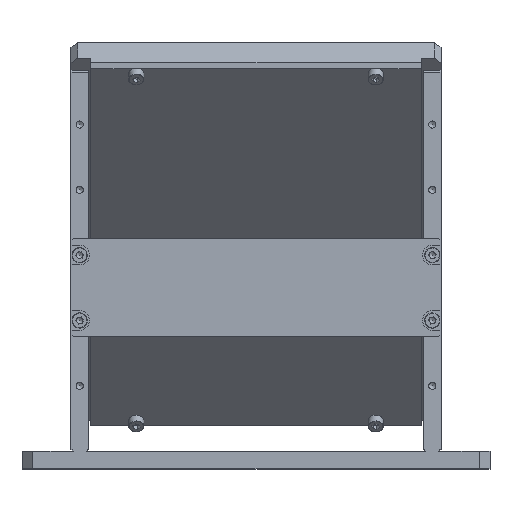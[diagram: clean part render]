
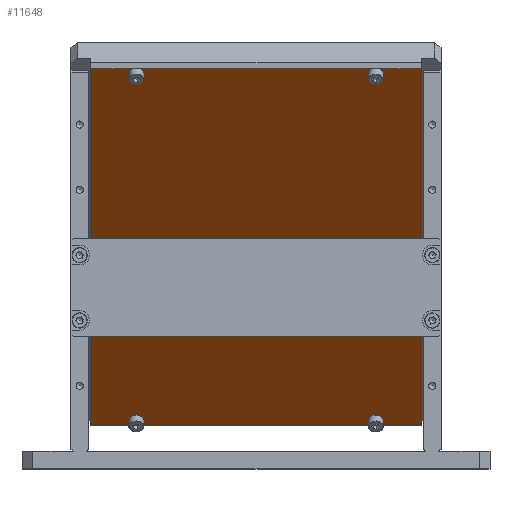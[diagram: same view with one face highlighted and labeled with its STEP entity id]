
A CAD part, top view. The second image highlights one B-rep face of the part: STEP entity #11648.
In plain terms, the highlighted planar face has unit normal (0, -0.707, 0.707).
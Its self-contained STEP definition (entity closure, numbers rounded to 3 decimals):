
#170 = CIRCLE ( 'NONE', #17756, 3.5 ) ;
#359 = DIRECTION ( 'NONE',  ( 1., 0., 0. ) ) ;
#461 = EDGE_CURVE ( 'NONE', #4904, #11922, #7398, .T. ) ;
#492 = DIRECTION ( 'NONE',  ( 0.73, -0.483, -0.483 ) ) ;
#736 = EDGE_CURVE ( 'NONE', #12644, #12628, #6485, .T. ) ;
#941 = CARTESIAN_POINT ( 'NONE',  ( -76., -89.803, -73.539 ) ) ;
#1149 = LINE ( 'NONE', #1432, #1457 ) ;
#1212 = CARTESIAN_POINT ( 'NONE',  ( 0., -8.132, 8.132 ) ) ;
#1432 = CARTESIAN_POINT ( 'NONE',  ( -76., 73.539, 89.803 ) ) ;
#1457 = VECTOR ( 'NONE', #14159, 1000. ) ;
#1490 = LINE ( 'NONE', #15899, #1929 ) ;
#1595 = CARTESIAN_POINT ( 'NONE',  ( -56.803, -89.803, -73.539 ) ) ;
#1682 = VECTOR ( 'NONE', #3490, 1000. ) ;
#1808 = LINE ( 'NONE', #12092, #1682 ) ;
#1835 = EDGE_CURVE ( 'NONE', #17514, #14970, #170, .T. ) ;
#1929 = VECTOR ( 'NONE', #17994, 1000. ) ;
#1980 = VERTEX_POINT ( 'NONE', #1595 ) ;
#1987 = VECTOR ( 'NONE', #6203, 1000. ) ;
#2007 = CARTESIAN_POINT ( 'NONE',  ( -55., -87.681, -71.418 ) ) ;
#2136 = LINE ( 'NONE', #8820, #1987 ) ;
#2783 = CARTESIAN_POINT ( 'NONE',  ( 76., 73.539, 89.803 ) ) ;
#2800 = CARTESIAN_POINT ( 'NONE',  ( 56.803, 73.539, 89.803 ) ) ;
#2904 = ORIENTED_EDGE ( 'NONE', *, *, #4113, .F. ) ;
#3484 = CARTESIAN_POINT ( 'NONE',  ( 53.197, 73.539, 89.803 ) ) ;
#3490 = DIRECTION ( 'NONE',  ( 0., -0.707, -0.707 ) ) ;
#3704 = EDGE_CURVE ( 'NONE', #10316, #1980, #11032, .T. ) ;
#3914 = CARTESIAN_POINT ( 'NONE',  ( -55., 71.418, 87.681 ) ) ;
#4113 = EDGE_CURVE ( 'NONE', #4904, #18864, #17099, .T. ) ;
#4736 = FACE_OUTER_BOUND ( 'NONE', #14343, .T. ) ;
#4904 = VERTEX_POINT ( 'NONE', #12426 ) ;
#4975 = DIRECTION ( 'NONE',  ( -1., 0., 0. ) ) ;
#5035 = CARTESIAN_POINT ( 'NONE',  ( 55., -87.681, -71.418 ) ) ;
#5488 = CARTESIAN_POINT ( 'NONE',  ( 53.197, -89.803, -73.539 ) ) ;
#5565 = ORIENTED_EDGE ( 'NONE', *, *, #10632, .F. ) ;
#5715 = CARTESIAN_POINT ( 'NONE',  ( -53.197, -89.803, -73.539 ) ) ;
#6040 = DIRECTION ( 'NONE',  ( 1., 0., 0. ) ) ;
#6203 = DIRECTION ( 'NONE',  ( 1., 0., 0. ) ) ;
#6346 = VECTOR ( 'NONE', #4975, 1000. ) ;
#6485 = LINE ( 'NONE', #11451, #6346 ) ;
#6725 = CARTESIAN_POINT ( 'NONE',  ( 55., 71.418, 87.681 ) ) ;
#6956 = EDGE_CURVE ( 'NONE', #17514, #8465, #2136, .T. ) ;
#6984 = DIRECTION ( 'NONE',  ( 0.73, -0.483, -0.483 ) ) ;
#7225 = ORIENTED_EDGE ( 'NONE', *, *, #9058, .T. ) ;
#7389 = DIRECTION ( 'NONE',  ( 0., -0.707, 0.707 ) ) ;
#7398 = LINE ( 'NONE', #18761, #7420 ) ;
#7408 = CARTESIAN_POINT ( 'NONE',  ( 76., -89.803, -73.539 ) ) ;
#7420 = VECTOR ( 'NONE', #12166, 1000. ) ;
#7568 = ORIENTED_EDGE ( 'NONE', *, *, #461, .T. ) ;
#8208 = EDGE_CURVE ( 'NONE', #13651, #18864, #1149, .T. ) ;
#8465 = VERTEX_POINT ( 'NONE', #16580 ) ;
#8689 = ORIENTED_EDGE ( 'NONE', *, *, #8208, .T. ) ;
#8820 = CARTESIAN_POINT ( 'NONE',  ( 76., -89.803, -73.539 ) ) ;
#9058 = EDGE_CURVE ( 'NONE', #10316, #14970, #13743, .T. ) ;
#9682 = DIRECTION ( 'NONE',  ( 0., -0.707, -0.707 ) ) ;
#9731 = DIRECTION ( 'NONE',  ( 0., -0.707, 0.707 ) ) ;
#9738 = EDGE_CURVE ( 'NONE', #18732, #1980, #18427, .T. ) ;
#9799 = CARTESIAN_POINT ( 'NONE',  ( -53.197, 73.539, 89.803 ) ) ;
#10240 = ORIENTED_EDGE ( 'NONE', *, *, #1835, .F. ) ;
#10316 = VERTEX_POINT ( 'NONE', #5715 ) ;
#10632 = EDGE_CURVE ( 'NONE', #13651, #12628, #12268, .T. ) ;
#11032 = CIRCLE ( 'NONE', #13980, 3.5 ) ;
#11115 = ORIENTED_EDGE ( 'NONE', *, *, #9738, .T. ) ;
#11451 = CARTESIAN_POINT ( 'NONE',  ( -76., 73.539, 89.803 ) ) ;
#11516 = AXIS2_PLACEMENT_3D ( 'NONE', #1212, #11717, #9682 ) ;
#11520 = DIRECTION ( 'NONE',  ( 0., -0.707, 0.707 ) ) ;
#11648 = ADVANCED_FACE ( 'NONE', ( #4736 ), #19315, .T. ) ;
#11717 = DIRECTION ( 'NONE',  ( 0., -0.707, 0.707 ) ) ;
#11922 = VERTEX_POINT ( 'NONE', #15534 ) ;
#12092 = CARTESIAN_POINT ( 'NONE',  ( 76., 74.953, 91.217 ) ) ;
#12166 = DIRECTION ( 'NONE',  ( -1., 0., 0. ) ) ;
#12268 = CIRCLE ( 'NONE', #16334, 3.5 ) ;
#12426 = CARTESIAN_POINT ( 'NONE',  ( -56.803, 73.539, 89.803 ) ) ;
#12628 = VERTEX_POINT ( 'NONE', #2800 ) ;
#12644 = VERTEX_POINT ( 'NONE', #2783 ) ;
#12822 = EDGE_CURVE ( 'NONE', #18732, #11922, #1490, .T. ) ;
#13212 = CARTESIAN_POINT ( 'NONE',  ( 56.803, -89.803, -73.539 ) ) ;
#13314 = AXIS2_PLACEMENT_3D ( 'NONE', #3914, #7389, #6984 ) ;
#13651 = VERTEX_POINT ( 'NONE', #3484 ) ;
#13743 = LINE ( 'NONE', #7408, #13781 ) ;
#13781 = VECTOR ( 'NONE', #6040, 1000. ) ;
#13980 = AXIS2_PLACEMENT_3D ( 'NONE', #2007, #19041, #492 ) ;
#13982 = ORIENTED_EDGE ( 'NONE', *, *, #3704, .F. ) ;
#14159 = DIRECTION ( 'NONE',  ( -1., 0., 0. ) ) ;
#14343 = EDGE_LOOP ( 'NONE', ( #5565, #8689, #2904, #7568, #16403, #11115, #13982, #7225, #10240, #15499, #20048, #19706 ) ) ;
#14574 = DIRECTION ( 'NONE',  ( 0.73, -0.483, -0.483 ) ) ;
#14970 = VERTEX_POINT ( 'NONE', #5488 ) ;
#15499 = ORIENTED_EDGE ( 'NONE', *, *, #6956, .T. ) ;
#15534 = CARTESIAN_POINT ( 'NONE',  ( -76., 73.539, 89.803 ) ) ;
#15899 = CARTESIAN_POINT ( 'NONE',  ( -76., 74.953, 91.217 ) ) ;
#16334 = AXIS2_PLACEMENT_3D ( 'NONE', #6725, #11520, #14574 ) ;
#16394 = EDGE_CURVE ( 'NONE', #12644, #8465, #1808, .T. ) ;
#16403 = ORIENTED_EDGE ( 'NONE', *, *, #12822, .F. ) ;
#16580 = CARTESIAN_POINT ( 'NONE',  ( 76., -89.803, -73.539 ) ) ;
#17099 = CIRCLE ( 'NONE', #13314, 3.5 ) ;
#17514 = VERTEX_POINT ( 'NONE', #13212 ) ;
#17756 = AXIS2_PLACEMENT_3D ( 'NONE', #5035, #9731, #18095 ) ;
#17994 = DIRECTION ( 'NONE',  ( 0., 0.707, 0.707 ) ) ;
#18058 = CARTESIAN_POINT ( 'NONE',  ( 76., -89.803, -73.539 ) ) ;
#18095 = DIRECTION ( 'NONE',  ( 0.73, -0.483, -0.483 ) ) ;
#18387 = VECTOR ( 'NONE', #359, 1000. ) ;
#18427 = LINE ( 'NONE', #18058, #18387 ) ;
#18732 = VERTEX_POINT ( 'NONE', #941 ) ;
#18761 = CARTESIAN_POINT ( 'NONE',  ( -76., 73.539, 89.803 ) ) ;
#18864 = VERTEX_POINT ( 'NONE', #9799 ) ;
#19041 = DIRECTION ( 'NONE',  ( 0., -0.707, 0.707 ) ) ;
#19315 = PLANE ( 'NONE',  #11516 ) ;
#19706 = ORIENTED_EDGE ( 'NONE', *, *, #736, .T. ) ;
#20048 = ORIENTED_EDGE ( 'NONE', *, *, #16394, .F. ) ;
